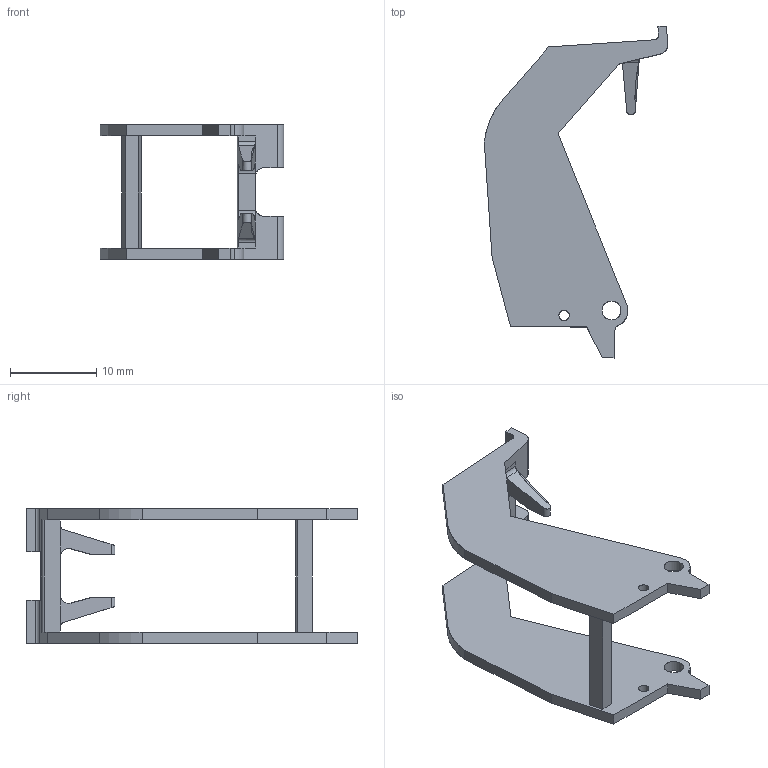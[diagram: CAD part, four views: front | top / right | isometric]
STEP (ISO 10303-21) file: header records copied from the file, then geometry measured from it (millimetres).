
FILE_DESCRIPTION(('STEP AP214'),'2;1');
FILE_NAME('097.01_catalogo.stp','2010-09-09T10:24:54',(''),(''),'2007.1.106','THINKDESIGN','');
FILE_SCHEMA(('AUTOMOTIVE_DESIGN'));
Length unit declared in the file: millimetre
Products named in the file (1): None
Bounding box: 21.29 x 38.5 x 15.6 mm (x, y, z)
Surface area: 2186.6 mm2 (no closed solid volume)
Topology: 0 solids, 0 shells, 86 faces, 481 edges, 481 vertices
Faces by surface type: plane 58, cylinder 28
Full cylindrical faces by diameter (mm): 1.2 x2, 2.2 x2
Entity records: 4777 total; most frequent: CARTESIAN_POINT 1346, DIRECTION 610, COMPOSITE_CURVE_SEGMENT 481, TRIMMED_CURVE 391, VECTOR 344, LINE 344, AXIS2_PLACEMENT_3D 133, OUTER_BOUNDARY_CURVE 86
